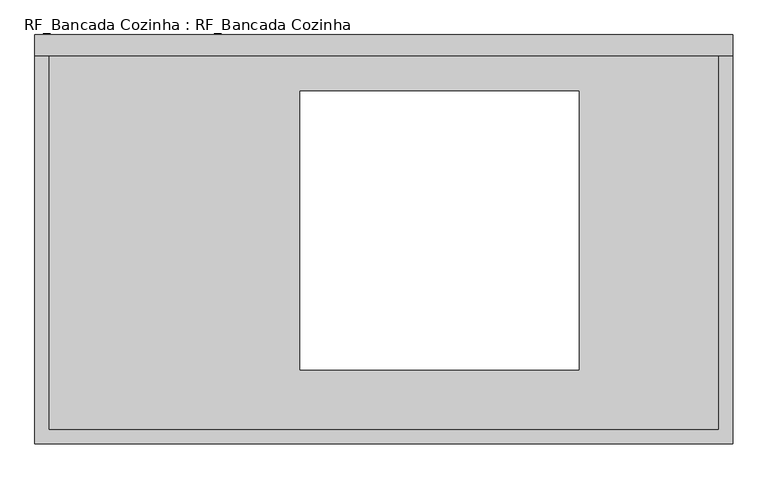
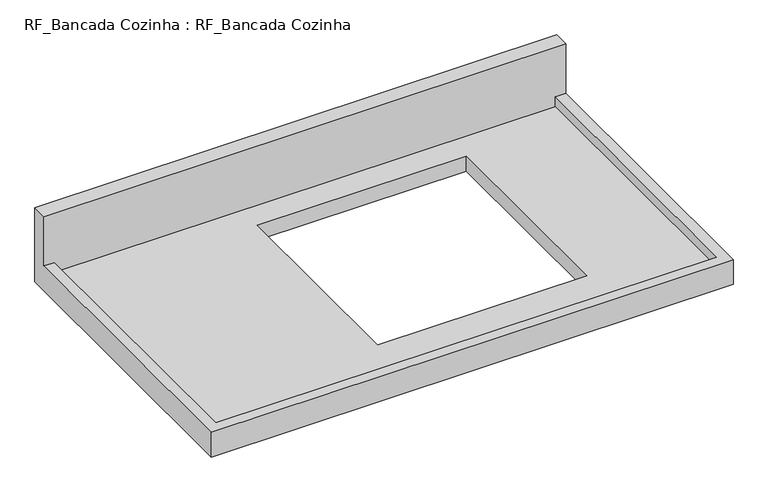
"""IFC4 building model written with IfcOpenShell, lengths in millimetres: proxy geometry, RF_Bancada Cozinha : RF_Bancada Cozinha."""

from ifc_helpers import new_model, si_unit, origin, place, context, project, spatial, faceted_brep, source, transform, mapped, element, save


def rf_bancada_cozinha_rf_bancada_cozinha_340fef9f(model_context):
    return source(origin(), model_context, "Body", "Brep", [
        faceted_brep([(1000.0, 0.0, 150.0), (1000.0, -30.0, 150.0), (1000.0, -30.0, 50.0), (1000.0, -586.2819009, 50.0), (1000.0, -586.2819009, 0.0), (1000.0, 0.0, 0.0), (0.0, 0.0, 150.0), (0.0, 0.0, 0.0), (0.0, -586.2819009, 0.0), (0.0, -586.2819009, 50.0), (0.0, -30.0, 50.0), (0.0, -30.0, 150.0), (20.0, -30.0, 50.0), (20.0, -30.0, 30.0), (980.0, -30.0, 30.0), (980.0, -30.0, 50.0), (980.0, -566.2819009, 50.0), (20.0, -566.2819009, 50.0), (380.0, -80.5819009, 0.0), (380.0, -480.5819009, 0.0), (780.0, -480.5819009, 0.0), (780.0, -80.5819009, 0.0), (20.0, -566.2819009, 30.0), (980.0, -566.2819009, 30.0), (380.0, -480.5819009, 30.0), (380.0, -80.5819009, 30.0), (780.0, -80.5819009, 30.0), (780.0, -480.5819009, 30.0)], [[[0, 1, 2, 3, 4, 5]], [[6, 7, 8, 9, 10, 11]], [[1, 0, 6, 11]], [[2, 1, 11, 10, 12, 13, 14, 15]], [[3, 2, 15, 16, 17, 12, 10, 9]], [[4, 3, 9, 8]], [[5, 4, 8, 7], [18, 19, 20, 21]], [[0, 5, 7, 6]], [[14, 13, 22, 23], [24, 25, 26, 27]], [[14, 23, 16, 15]], [[23, 22, 17, 16]], [[22, 13, 12, 17]], [[24, 19, 18, 25]], [[25, 18, 21, 26]], [[26, 21, 20, 27]], [[19, 24, 27, 20]]]),
    ])


if __name__ == "__main__":
    model = new_model("IFC4")
    model_context = context("Model", 3, world=origin())
    ifc_project = project(units=[si_unit("LENGTHUNIT", "METRE", prefix="MILLI")], contexts=[model_context])
    site = spatial("IfcSite", under=ifc_project)
    building = spatial("IfcBuilding", under=site)
    placement = place(None, origin())
    rf_bancada_cozinha_rf_bancada_cozinha_shape = rf_bancada_cozinha_rf_bancada_cozinha_340fef9f(model_context)
    element("IfcBuildingElementProxy", 1, Name="RF_Bancada Cozinha : RF_Bancada Cozinha", ObjectType="RF_Bancada Cozinha : RF_Bancada Cozinha", at=placement, inside=building, context=model_context, shape_type="MappedRepresentation", body=[
        mapped(rf_bancada_cozinha_rf_bancada_cozinha_shape, transform((0.0, 0.0, 0.0), x_axis=(1.0, 0.0, 0.0), y_axis=(0.0, 1.0, 0.0), z_axis=(0.0, 0.0, 1.0))),
    ])
    save(model, "model.ifc")
